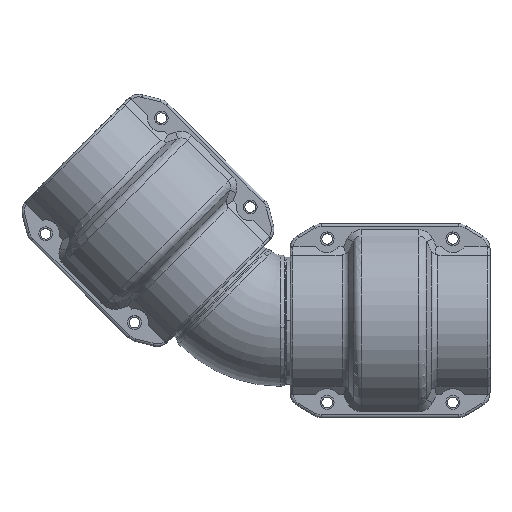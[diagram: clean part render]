
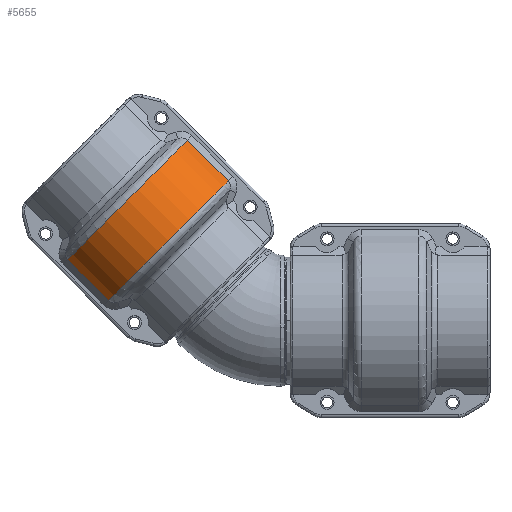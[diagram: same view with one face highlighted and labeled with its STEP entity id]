
A CAD part, top view. The second image highlights one B-rep face of the part: STEP entity #5655.
In plain terms, the highlighted cylindrical face has radius 37.15 mm (diameter 74.3 mm), a partial arc.
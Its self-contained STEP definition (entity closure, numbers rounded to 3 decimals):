
#3039=CARTESIAN_POINT('',(-11.462,0.,0.));
#3040=DIRECTION('',(1.,0.,0.));
#3041=DIRECTION('',(0.,0.,1.));
#3042=AXIS2_PLACEMENT_3D('',#3039,#3040,#3041);
#3063=CARTESIAN_POINT('',(-11.462,0.,0.));
#3064=DIRECTION('',(1.,0.,0.));
#3065=DIRECTION('',(0.,0.906,0.424));
#3066=AXIS2_PLACEMENT_3D('',#3063,#3064,#3065);
#3071=DIRECTION('',(-1.,0.,0.));
#3072=VECTOR('',#3071,22.924);
#3073=CARTESIAN_POINT('',(11.462,-33.64,15.763));
#3074=LINE('',#3073,#3072);
#3078=DIRECTION('',(1.,0.,0.));
#3079=VECTOR('',#3078,22.924);
#3080=CARTESIAN_POINT('',(-11.462,33.64,15.763));
#3081=LINE('',#3080,#3079);
#3093=CARTESIAN_POINT('',(11.462,0.,0.));
#3094=DIRECTION('',(-1.,0.,0.));
#3095=DIRECTION('',(0.,-0.906,0.424));
#3096=AXIS2_PLACEMENT_3D('',#3093,#3094,#3095);
#3101=CARTESIAN_POINT('',(11.462,0.,0.));
#3102=DIRECTION('',(-1.,0.,0.));
#3103=DIRECTION('',(0.,0.,1.));
#3104=AXIS2_PLACEMENT_3D('',#3101,#3102,#3103);
#3754=CARTESIAN_POINT('',(11.462,-33.64,15.763));
#4444=CARTESIAN_POINT('',(-11.462,33.64,15.763));
#4805=VERTEX_POINT('',#3754);
#4806=CARTESIAN_POINT('',(11.462,0.,37.15));
#4807=VERTEX_POINT('',#4806);
#4808=CARTESIAN_POINT('',(11.462,33.64,15.763));
#4809=VERTEX_POINT('',#4808);
#4810=CARTESIAN_POINT('',(-11.462,-33.64,
15.763));
#4811=VERTEX_POINT('',#4810);
#4821=CARTESIAN_POINT('',(-11.462,0.,37.15));
#4822=VERTEX_POINT('',#4821);
#4823=VERTEX_POINT('',#4444);
#5638=CARTESIAN_POINT('',(45.067,0.,0.));
#5639=DIRECTION('',(-1.,0.,0.));
#5640=DIRECTION('',(0.,0.,1.));
#5641=AXIS2_PLACEMENT_3D('',#5638,#5639,#5640);
#5642=CYLINDRICAL_SURFACE('',#5641,37.15);
#5644=ORIENTED_EDGE('',*,*,#5643,.F.);
#5646=ORIENTED_EDGE('',*,*,#5645,.T.);
#5647=ORIENTED_EDGE('',*,*,#5625,.F.);
#5648=ORIENTED_EDGE('',*,*,#5633,.F.);
#5650=ORIENTED_EDGE('',*,*,#5649,.T.);
#5652=ORIENTED_EDGE('',*,*,#5651,.F.);
#5653=EDGE_LOOP('',(#5644,#5646,#5647,#5648,#5650,#5652));
#5654=FACE_OUTER_BOUND('',#5653,.F.);
#3043=CIRCLE('',#3042,37.15);
#3067=CIRCLE('',#3066,37.15);
#3097=CIRCLE('',#3096,37.15);
#3105=CIRCLE('',#3104,37.15);
#5625=EDGE_CURVE('',#4822,#4811,#3043,.T.);
#5633=EDGE_CURVE('',#4823,#4822,#3067,.T.);
#5643=EDGE_CURVE('',#4805,#4807,#3097,.T.);
#5645=EDGE_CURVE('',#4805,#4811,#3074,.T.);
#5649=EDGE_CURVE('',#4823,#4809,#3081,.T.);
#5651=EDGE_CURVE('',#4807,#4809,#3105,.T.);
#5655=ADVANCED_FACE('',(#5654),#5642,.T.);
